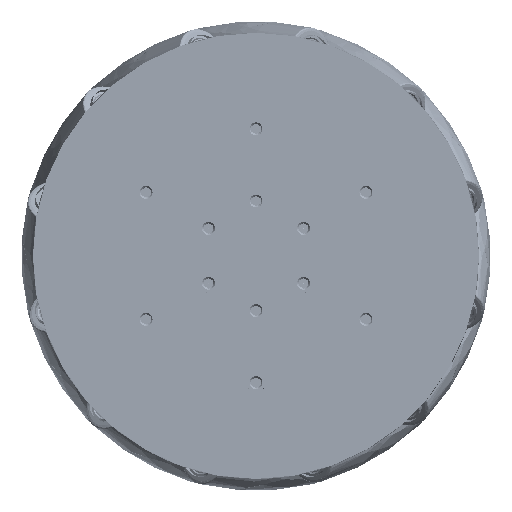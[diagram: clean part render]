
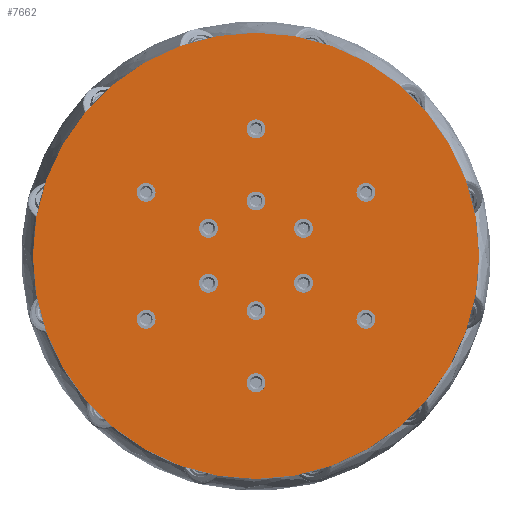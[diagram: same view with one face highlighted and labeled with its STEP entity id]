
A CAD part, top view. The second image highlights one B-rep face of the part: STEP entity #7662.
In plain terms, the highlighted planar face has unit normal (0, 0, 1).
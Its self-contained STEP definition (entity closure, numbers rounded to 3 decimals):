
#635 = CYLINDRICAL_SURFACE('',#636,96.6);
#636 = AXIS2_PLACEMENT_3D('',#637,#638,#639);
#637 = CARTESIAN_POINT('',(0.,0.,-39.));
#638 = DIRECTION('',(0.,0.,1.));
#639 = DIRECTION('',(1.,0.,-0.));
#662 = CYLINDRICAL_SURFACE('',#663,96.6);
#663 = AXIS2_PLACEMENT_3D('',#664,#665,#666);
#664 = CARTESIAN_POINT('',(0.,0.,-39.));
#665 = DIRECTION('',(0.,0.,1.));
#666 = DIRECTION('',(1.,0.,-0.));
#815 = VERTEX_POINT('',#816);
#816 = CARTESIAN_POINT('',(-96.6,0.,39.));
#837 = EDGE_CURVE('',#838,#815,#840,.T.);
#838 = VERTEX_POINT('',#839);
#839 = CARTESIAN_POINT('',(96.6,0.,39.));
#840 = SURFACE_CURVE('',#841,(#846,#853),.PCURVE_S1.);
#841 = CIRCLE('',#842,96.6);
#842 = AXIS2_PLACEMENT_3D('',#843,#844,#845);
#843 = CARTESIAN_POINT('',(0.,0.,39.));
#844 = DIRECTION('',(0.,0.,1.));
#845 = DIRECTION('',(1.,0.,-0.));
#846 = PCURVE('',#635,#847);
#847 = DEFINITIONAL_REPRESENTATION('',(#848),#852);
#848 = LINE('',#849,#850);
#849 = CARTESIAN_POINT('',(0.,78.));
#850 = VECTOR('',#851,1.);
#851 = DIRECTION('',(1.,0.));
#852 = ( GEOMETRIC_REPRESENTATION_CONTEXT(2) 
PARAMETRIC_REPRESENTATION_CONTEXT() REPRESENTATION_CONTEXT('2D SPACE',''
  ) );
#853 = PCURVE('',#854,#859);
#854 = PLANE('',#855);
#855 = AXIS2_PLACEMENT_3D('',#856,#857,#858);
#856 = CARTESIAN_POINT('',(0.,0.,39.));
#857 = DIRECTION('',(0.,0.,1.));
#858 = DIRECTION('',(1.,0.,-0.));
#859 = DEFINITIONAL_REPRESENTATION('',(#860),#864);
#860 = CIRCLE('',#861,96.6);
#861 = AXIS2_PLACEMENT_2D('',#862,#863);
#862 = CARTESIAN_POINT('',(0.,0.));
#863 = DIRECTION('',(1.,0.));
#864 = ( GEOMETRIC_REPRESENTATION_CONTEXT(2) 
PARAMETRIC_REPRESENTATION_CONTEXT() REPRESENTATION_CONTEXT('2D SPACE',''
  ) );
#3974 = EDGE_CURVE('',#815,#838,#3975,.T.);
#3975 = SURFACE_CURVE('',#3976,(#3981,#3988),.PCURVE_S1.);
#3976 = CIRCLE('',#3977,96.6);
#3977 = AXIS2_PLACEMENT_3D('',#3978,#3979,#3980);
#3978 = CARTESIAN_POINT('',(0.,0.,39.));
#3979 = DIRECTION('',(0.,0.,1.));
#3980 = DIRECTION('',(-1.,0.,0.));
#3981 = PCURVE('',#662,#3982);
#3982 = DEFINITIONAL_REPRESENTATION('',(#3983),#3987);
#3983 = LINE('',#3984,#3985);
#3984 = CARTESIAN_POINT('',(3.142,78.));
#3985 = VECTOR('',#3986,1.);
#3986 = DIRECTION('',(1.,0.));
#3987 = ( GEOMETRIC_REPRESENTATION_CONTEXT(2) 
PARAMETRIC_REPRESENTATION_CONTEXT() REPRESENTATION_CONTEXT('2D SPACE',''
  ) );
#3988 = PCURVE('',#854,#3989);
#3989 = DEFINITIONAL_REPRESENTATION('',(#3990),#3994);
#3990 = CIRCLE('',#3991,96.6);
#3991 = AXIS2_PLACEMENT_2D('',#3992,#3993);
#3992 = CARTESIAN_POINT('',(0.,0.));
#3993 = DIRECTION('',(-1.,0.));
#3994 = ( GEOMETRIC_REPRESENTATION_CONTEXT(2) 
PARAMETRIC_REPRESENTATION_CONTEXT() REPRESENTATION_CONTEXT('2D SPACE',''
  ) );
#7662 = ADVANCED_FACE('',(#7663),#854,.T.);
#7663 = FACE_BOUND('',#7664,.F.);
#7664 = EDGE_LOOP('',(#7665,#7666));
#7665 = ORIENTED_EDGE('',*,*,#837,.F.);
#7666 = ORIENTED_EDGE('',*,*,#3974,.F.);
